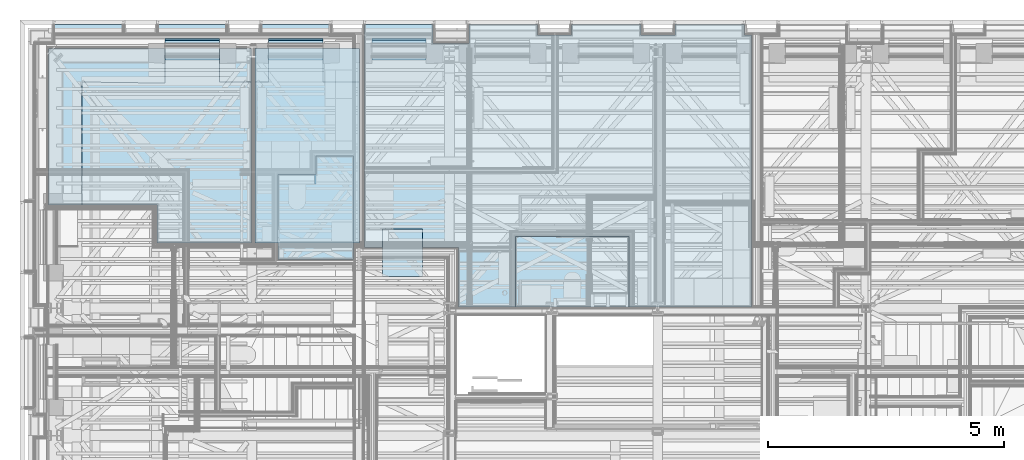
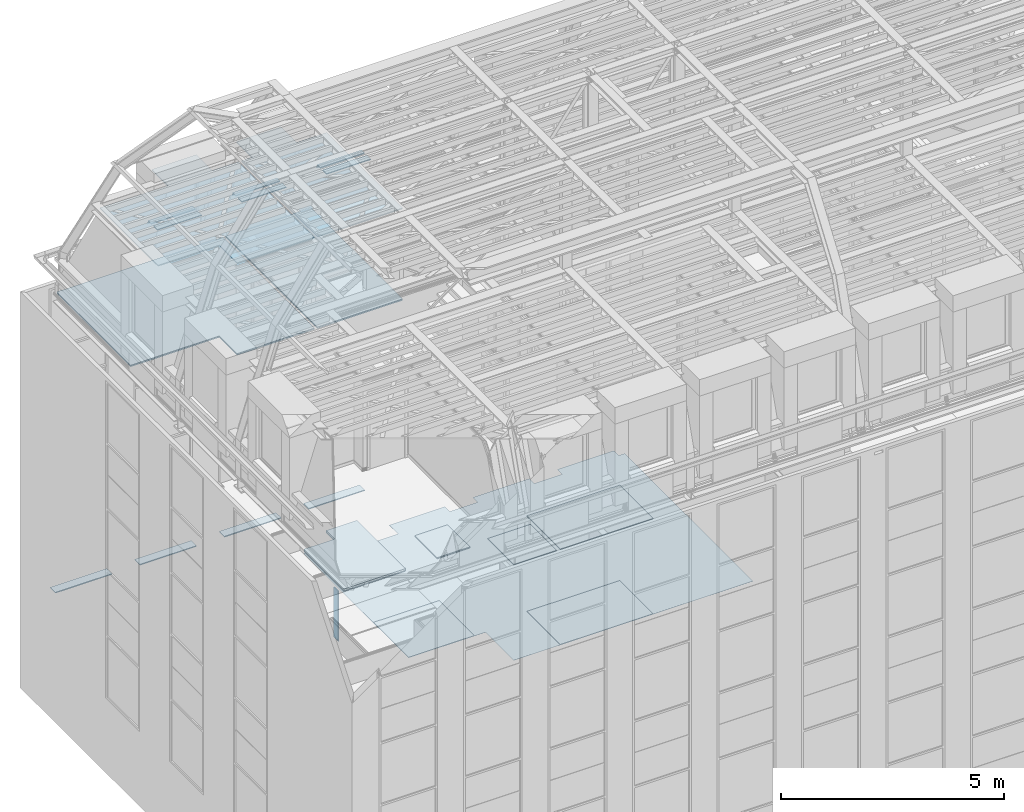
# One storey, part 88 of 183: 31 slabs.
"""IFC2X3 building model written with IfcOpenShell, lengths in metres."""

from ifc_helpers import new_model, entity, si_unit, converted_unit, derived_unit, money_unit, direction, frame, origin_with_axes, place, context, subcontext, project, spatial, faceted_brep, material, type_object, element, save


model = new_model("IFC2X3")

# Units and contexts
model_context = context("Model", 3, precision=1e-05, world=origin_with_axes(), true_north=direction((0.0, 1.0)))
body_context = subcontext(model_context, "Body", "Model", "MODEL_VIEW", scale=1.0)
ifc_project = project(units=[si_unit("LENGTHUNIT", "METRE"), si_unit("AREAUNIT", "SQUARE_METRE"), si_unit("VOLUMEUNIT", "CUBIC_METRE"), si_unit("ABSORBEDDOSEUNIT", "GRAY"), si_unit("AMOUNTOFSUBSTANCEUNIT", "MOLE"), si_unit("DOSEEQUIVALENTUNIT", "SIEVERT"), si_unit("ELECTRICCAPACITANCEUNIT", "FARAD"), si_unit("ELECTRICCHARGEUNIT", "COULOMB"), si_unit("ELECTRICCONDUCTANCEUNIT", "SIEMENS"), si_unit("ELECTRICCURRENTUNIT", "AMPERE"), si_unit("ELECTRICRESISTANCEUNIT", "OHM"), si_unit("ELECTRICVOLTAGEUNIT", "VOLT"), si_unit("ENERGYUNIT", "JOULE"), si_unit("FORCEUNIT", "NEWTON"), si_unit("FREQUENCYUNIT", "HERTZ"), si_unit("ILLUMINANCEUNIT", "LUX"), si_unit("INDUCTANCEUNIT", "HENRY"), si_unit("LUMINOUSFLUXUNIT", "LUMEN"), si_unit("LUMINOUSINTENSITYUNIT", "CANDELA"), si_unit("MAGNETICFLUXDENSITYUNIT", "TESLA"), si_unit("MAGNETICFLUXUNIT", "WEBER"), si_unit("MASSUNIT", "GRAM"), converted_unit("PLANEANGLEUNIT", "degree", entity("IfcReal", 0.0174532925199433), si_unit("PLANEANGLEUNIT", "RADIAN"), dimensions=[0, 0, 0, 0, 0, 0, 0]), si_unit("POWERUNIT", "WATT"), si_unit("PRESSUREUNIT", "PASCAL"), si_unit("RADIOACTIVITYUNIT", "BECQUEREL"), si_unit("SOLIDANGLEUNIT", "STERADIAN"), si_unit("THERMODYNAMICTEMPERATUREUNIT", "KELVIN"), si_unit("TIMEUNIT", "SECOND"), derived_unit("ACCELERATIONUNIT", [(si_unit("LENGTHUNIT", "METRE"), 1), (si_unit("TIMEUNIT", "SECOND"), -2)]), derived_unit("ANGULARVELOCITYUNIT", [(converted_unit("PLANEANGLEUNIT", "degree", entity("IfcReal", 0.0174532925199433), si_unit("PLANEANGLEUNIT", "RADIAN"), dimensions=[0, 0, 0, 0, 0, 0, 0]), 1), (si_unit("TIMEUNIT", "SECOND"), -1)]), derived_unit("CURVATUREUNIT", [(converted_unit("PLANEANGLEUNIT", "degree", entity("IfcReal", 0.0174532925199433), si_unit("PLANEANGLEUNIT", "RADIAN"), dimensions=[0, 0, 0, 0, 0, 0, 0]), 1), (si_unit("LENGTHUNIT", "METRE"), -1)]), derived_unit("DYNAMICVISCOSITYUNIT", [(si_unit("PRESSUREUNIT", "PASCAL"), 1), (si_unit("TIMEUNIT", "SECOND"), 1)]), derived_unit("HEATFLUXDENSITYUNIT", [(si_unit("POWERUNIT", "WATT"), 1), (si_unit("LENGTHUNIT", "METRE"), -2)]), derived_unit("HEATINGVALUEUNIT", [(si_unit("ENERGYUNIT", "JOULE"), 1), (si_unit("MASSUNIT", "GRAM"), -1)]), derived_unit("INTEGERCOUNTRATEUNIT", [(si_unit("TIMEUNIT", "SECOND"), -1)]), derived_unit("IONCONCENTRATIONUNIT", [(si_unit("MASSUNIT", "GRAM"), 1), (si_unit("VOLUMEUNIT", "CUBIC_METRE"), -1)]), derived_unit("ISOTHERMALMOISTURECAPACITYUNIT", [(si_unit("VOLUMEUNIT", "CUBIC_METRE"), 1), (si_unit("MASSUNIT", "GRAM"), -1)]), derived_unit("KINEMATICVISCOSITYUNIT", [(si_unit("AREAUNIT", "SQUARE_METRE"), 1), (si_unit("TIMEUNIT", "SECOND"), -1)]), derived_unit("LINEARFORCEUNIT", [(si_unit("FORCEUNIT", "NEWTON"), 1), (si_unit("LENGTHUNIT", "METRE"), -1)]), derived_unit("LINEARMOMENTUNIT", [(si_unit("FORCEUNIT", "NEWTON"), 1), (si_unit("LENGTHUNIT", "METRE"), -1)]), derived_unit("LINEARSTIFFNESSUNIT", [(si_unit("FORCEUNIT", "NEWTON"), 1), (si_unit("LENGTHUNIT", "METRE"), -1)]), derived_unit("LINEARVELOCITYUNIT", [(si_unit("LENGTHUNIT", "METRE"), 1), (si_unit("TIMEUNIT", "SECOND"), -1)]), derived_unit("LUMINOUSINTENSITYDISTRIBUTIONUNIT", [(si_unit("LUMINOUSINTENSITYUNIT", "CANDELA"), 1), (si_unit("LUMINOUSFLUXUNIT", "LUMEN"), -1)]), derived_unit("MASSDENSITYUNIT", [(si_unit("MASSUNIT", "GRAM"), 1), (si_unit("VOLUMEUNIT", "CUBIC_METRE"), -1)]), derived_unit("MASSFLOWRATEUNIT", [(si_unit("MASSUNIT", "GRAM"), 1), (si_unit("TIMEUNIT", "SECOND"), -1)]), derived_unit("MASSPERLENGTHUNIT", [(si_unit("MASSUNIT", "GRAM"), 1), (si_unit("LENGTHUNIT", "METRE"), -1)]), derived_unit("MODULUSOFELASTICITYUNIT", [(si_unit("FORCEUNIT", "NEWTON"), 1), (si_unit("AREAUNIT", "SQUARE_METRE"), -1)]), derived_unit("MODULUSOFLINEARSUBGRADEREACTIONUNIT", [(si_unit("FORCEUNIT", "NEWTON"), 1), (si_unit("LENGTHUNIT", "METRE"), -2)]), derived_unit("MODULUSOFROTATIONALSUBGRADEREACTIONUNIT", [(si_unit("FORCEUNIT", "NEWTON"), 1), (si_unit("LENGTHUNIT", "METRE"), 1)]), derived_unit("MODULUSOFSUBGRADEREACTIONUNIT", [(si_unit("FORCEUNIT", "NEWTON"), 1), (si_unit("VOLUMEUNIT", "CUBIC_METRE"), -1)]), derived_unit("MOISTUREDIFFUSIVITYUNIT", [(si_unit("VOLUMEUNIT", "CUBIC_METRE"), 1), (si_unit("TIMEUNIT", "SECOND"), -1)]), derived_unit("MOLECULARWEIGHTUNIT", [(si_unit("MASSUNIT", "GRAM"), 1), (si_unit("AMOUNTOFSUBSTANCEUNIT", "MOLE"), -1)]), derived_unit("PLANARFORCEUNIT", [(si_unit("FORCEUNIT", "NEWTON"), 1), (si_unit("LENGTHUNIT", "METRE"), -2)]), derived_unit("ROTATIONALFREQUENCYUNIT", [(si_unit("TIMEUNIT", "SECOND"), -1)]), derived_unit("ROTATIONALMASSUNIT", [(si_unit("MASSUNIT", "GRAM"), 1), (si_unit("LENGTHUNIT", "METRE"), 2)]), derived_unit("ROTATIONALSTIFFNESSUNIT", [(si_unit("FORCEUNIT", "NEWTON"), 1), (si_unit("LENGTHUNIT", "METRE"), 1), (converted_unit("PLANEANGLEUNIT", "degree", entity("IfcReal", 0.0174532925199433), si_unit("PLANEANGLEUNIT", "RADIAN"), dimensions=[0, 0, 0, 0, 0, 0, 0]), -1)]), derived_unit("SECTIONAREAINTEGRALUNIT", [(si_unit("LENGTHUNIT", "METRE"), 5)]), derived_unit("SECTIONMODULUSUNIT", [(si_unit("LENGTHUNIT", "METRE"), 3)]), derived_unit("SHEARMODULUSUNIT", [(si_unit("FORCEUNIT", "NEWTON"), 1), (si_unit("AREAUNIT", "SQUARE_METRE"), -1)]), derived_unit("SOUNDPOWERUNIT", [(si_unit("ENERGYUNIT", "JOULE"), 1), (si_unit("TIMEUNIT", "SECOND"), -1)]), derived_unit("SPECIFICHEATCAPACITYUNIT", [(si_unit("FORCEUNIT", "NEWTON"), 1), (si_unit("MASSUNIT", "GRAM"), -1), (si_unit("THERMODYNAMICTEMPERATUREUNIT", "KELVIN"), -1)]), derived_unit("TEMPERATUREGRADIENTUNIT", [(si_unit("THERMODYNAMICTEMPERATUREUNIT", "KELVIN"), 1), (si_unit("LENGTHUNIT", "METRE"), -1)]), derived_unit("THERMALADMITTANCEUNIT", [(si_unit("POWERUNIT", "WATT"), 1), (si_unit("AREAUNIT", "SQUARE_METRE"), -1), (si_unit("THERMODYNAMICTEMPERATUREUNIT", "KELVIN"), -1)]), derived_unit("THERMALCONDUCTANCEUNIT", [(si_unit("POWERUNIT", "WATT"), 1), (si_unit("LENGTHUNIT", "METRE"), -1), (si_unit("THERMODYNAMICTEMPERATUREUNIT", "KELVIN"), -1)]), derived_unit("THERMALEXPANSIONCOEFFICIENTUNIT", [(si_unit("THERMODYNAMICTEMPERATUREUNIT", "KELVIN"), -1)]), derived_unit("THERMALRESISTANCEUNIT", [(si_unit("AREAUNIT", "SQUARE_METRE"), 1), (si_unit("POWERUNIT", "WATT"), -1)]), derived_unit("THERMALTRANSMITTANCEUNIT", [(si_unit("POWERUNIT", "WATT"), 1), (si_unit("AREAUNIT", "SQUARE_METRE"), -1), (si_unit("THERMODYNAMICTEMPERATUREUNIT", "KELVIN"), -1)]), derived_unit("TORQUEUNIT", [(si_unit("FORCEUNIT", "NEWTON"), 1), (si_unit("LENGTHUNIT", "METRE"), 1)]), derived_unit("VAPORPERMEABILITYUNIT", [(si_unit("MASSUNIT", "GRAM"), 1), (si_unit("TIMEUNIT", "SECOND"), -1)]), derived_unit("VOLUMETRICFLOWRATEUNIT", [(si_unit("VOLUMEUNIT", "CUBIC_METRE"), 1), (si_unit("TIMEUNIT", "SECOND"), -1)]), derived_unit("WARPINGCONSTANTUNIT", [(si_unit("LENGTHUNIT", "METRE"), 6)]), derived_unit("WARPINGMOMENTUNIT", [(si_unit("FORCEUNIT", "NEWTON"), 1), (si_unit("LENGTHUNIT", "METRE"), 2)]), money_unit("GBP")], contexts=[model_context])

# Site, building, storey
site_placement = place(None, origin_with_axes())
site = spatial("IfcSite", under=ifc_project, at=site_placement, Name="Site", CompositionType="ELEMENT")
building_placement = place(site_placement, origin_with_axes())
building = spatial("IfcBuilding", under=site, at=building_placement, Name="Building01", CompositionType="ELEMENT")
storey_placement = place(building_placement, frame((0.0, 0.0, 5.15), z_axis=(0.0, 0.0, 1.0), x_axis=(1.0, 0.0, 0.0)))
storey = spatial("IfcBuildingStorey", under=building, at=storey_placement, Name="1F", CompositionType="ELEMENT", Elevation=5.15)

# Slabs
ifc_material_1 = material(Name="A_BSUK_ExpandedPolystyreneBoards")
slab_type_1 = type_object("IfcSlabType", Name="A-FloorsSlabs A_BSUK_Slabs", PredefinedType="FLOOR")
placement = place(storey_placement, frame((0.0, 0.0, -5.15), z_axis=(0.0, 0.0, 1.0), x_axis=(1.0, 0.0, 0.0)))
element("IfcSlab", 1, at=placement, inside=storey, type_object=slab_type_1, material=ifc_material_1, Name="A-FloorsSlabs A_BSUK_Slabs", ObjectType="CompoundSlabLeaf", context=body_context, shape_type="Brep", body=[
    faceted_brep([(7.289669, 10.087704, 5.15), (7.289669, 10.087704, 5.153), (7.289669, 14.582, 5.153), (7.289669, 14.582, 5.15), (9.285, 10.087704, 5.15), (9.285, 10.087704, 5.153), (9.285, 8.82, 5.15), (9.285, 8.82, 5.153), (12.893585, 8.82, 5.15), (12.893585, 8.82, 5.153), (15.483132, 8.82, 5.15), (15.483132, 8.82, 5.153), (15.483132, 14.582, 5.15), (15.483132, 14.582, 5.153), (15.335, 14.582, 5.15), (15.335, 14.582, 5.153), (15.335, 14.8, 5.15), (15.335, 14.8, 5.153), (13.865, 14.8, 5.15), (13.865, 14.8, 5.153), (13.865, 14.582, 5.15), (13.865, 14.582, 5.153), (13.145, 14.582, 5.15), (13.145, 14.582, 5.153), (13.145, 14.8, 5.15), (13.145, 14.8, 5.153), (11.675, 14.8, 5.15), (11.675, 14.8, 5.153), (11.675, 14.582, 5.15), (11.675, 14.582, 5.153), (10.955, 14.582, 5.15), (10.955, 14.582, 5.153), (10.955, 14.8, 5.15), (10.955, 14.8, 5.153), (9.508, 14.8, 5.15), (9.508, 14.8, 5.153), (9.508, 14.402, 5.15), (9.508, 14.402, 5.153), (8.742, 14.402, 5.15), (8.742, 14.402, 5.153), (8.742, 14.8, 5.15), (8.742, 14.8, 5.153), (7.295, 14.8, 5.15), (7.295, 14.8, 5.153), (7.295, 14.582, 5.15), (7.295, 14.582, 5.153)], [[[0, 1, 2, 3]], [[4, 5, 1, 0]], [[6, 7, 5, 4]], [[8, 9, 7, 6]], [[10, 11, 9, 8]], [[12, 13, 11, 10]], [[14, 15, 13, 12]], [[16, 17, 15, 14]], [[18, 19, 17, 16]], [[20, 21, 19, 18]], [[22, 23, 21, 20]], [[24, 25, 23, 22]], [[26, 27, 25, 24]], [[28, 29, 27, 26]], [[30, 31, 29, 28]], [[32, 33, 31, 30]], [[34, 35, 33, 32]], [[36, 37, 35, 34]], [[38, 39, 37, 36]], [[40, 41, 39, 38]], [[42, 43, 41, 40]], [[44, 45, 43, 42]], [[3, 2, 45, 44]], [[1, 5, 7, 9, 11, 13, 15, 17, 19, 21, 23, 25, 27, 29, 31, 33, 35, 37, 39, 41, 43, 45, 2]], [[3, 44, 42, 40, 38, 36, 34, 32, 30, 28, 26, 24, 22, 20, 18, 16, 14, 12, 10, 8, 6, 4, 0]]]),
])
ifc_material_2 = material(Name="A_BSUK_Parquet_Floor")
element("IfcSlab", 2, at=placement, inside=storey, type_object=slab_type_1, material=ifc_material_2, Name="A-FloorsSlabs A_BSUK_Slabs", ObjectType="CompoundSlabLeaf", context=body_context, shape_type="Brep", body=[
    faceted_brep([(7.289669, 10.087704, 5.153), (7.289669, 10.087704, 5.165), (7.289669, 11.668124, 5.165), (7.289669, 11.668124, 5.153), (8.995, 10.087704, 5.153), (8.995, 10.087704, 5.165), (8.995, 11.668124, 5.153), (8.995, 11.668124, 5.165)], [[[0, 1, 2, 3]], [[4, 5, 1, 0]], [[6, 7, 5, 4]], [[3, 2, 7, 6]], [[1, 5, 7, 2]], [[3, 6, 4, 0]]]),
])
ifc_material_3 = material(Name="A_BSUK_Ceramic_FloorTiles")
element("IfcSlab", 3, at=placement, inside=storey, type_object=slab_type_1, material=ifc_material_3, Name="A-FloorsSlabs A_BSUK_Slabs", ObjectType="CompoundSlabLeaf", context=body_context, shape_type="Brep", body=[
    faceted_brep([(10.488871, 10.32, 5.153), (10.488871, 10.32, 5.165), (12.893585, 10.32, 5.165), (12.893585, 10.32, 5.153), (10.488871, 8.82, 5.153), (10.488871, 8.82, 5.165), (12.893585, 8.82, 5.153), (12.893585, 8.82, 5.165)], [[[0, 1, 2, 3]], [[4, 5, 1, 0]], [[6, 7, 5, 4]], [[3, 2, 7, 6]], [[1, 5, 7, 2]], [[3, 6, 4, 0]]]),
])
ifc_material_4 = material(Name="A_BSUK_CeilingSoffitFinishes_Suspended")
element("IfcSlab", 4, at=placement, inside=storey, type_object=slab_type_1, material=ifc_material_4, Name="A-FloorsSlabs A_BSUK_Slabs", ObjectType="CompoundSlabLeaf", context=body_context, shape_type="Brep", body=[
    faceted_brep([(5.464669, 10.53067, 7.765), (5.464669, 10.53067, 7.78), (5.464669, 11.63067, 7.78), (5.464669, 11.63067, 7.765), (5.464669, 9.83067, 7.765), (5.464669, 9.83067, 7.78), (7.064669, 9.83067, 7.765), (7.064669, 9.83067, 7.78), (7.064669, 12.01567, 7.765), (7.064669, 12.01567, 7.78), (6.264669, 12.01567, 7.765), (6.264669, 12.01567, 7.78), (6.264669, 11.63067, 7.765), (6.264669, 11.63067, 7.78)], [[[0, 1, 2, 3]], [[4, 5, 1, 0]], [[6, 7, 5, 4]], [[8, 9, 7, 6]], [[10, 11, 9, 8]], [[12, 13, 11, 10]], [[3, 2, 13, 12]], [[1, 5, 7, 9, 11, 13, 2]], [[3, 12, 10, 8, 6, 4, 0]]]),
])
element("IfcSlab", 5, at=placement, inside=storey, type_object=slab_type_1, material=ifc_material_4, Name="A-FloorsSlabs A_BSUK_Slabs", ObjectType="CompoundSlabLeaf", context=body_context, shape_type="Brep", body=[
    faceted_brep([(10.488871, 10.32, 7.765), (10.488871, 10.32, 7.78), (12.893585, 10.32, 7.78), (12.893585, 10.32, 7.765), (10.488871, 8.82, 7.765), (10.488871, 8.82, 7.78), (12.893585, 8.82, 7.765), (12.893585, 8.82, 7.78)], [[[0, 1, 2, 3]], [[4, 5, 1, 0]], [[6, 7, 5, 4]], [[3, 2, 7, 6]], [[1, 5, 7, 2]], [[3, 6, 4, 0]]]),
])
element("IfcSlab", 6, at=placement, inside=storey, type_object=slab_type_1, material=ifc_material_4, Name="A-FloorsSlabs A_BSUK_Slabs", ObjectType="CompoundSlabLeaf", context=body_context, shape_type="Brep", body=[
    faceted_brep([(9.285, 8.82, 7.765), (9.285, 8.82, 7.78), (9.285, 9.992662, 7.78), (9.285, 9.992662, 7.765), (10.393585, 8.82, 7.765), (10.393585, 8.82, 7.78), (10.393585, 9.992662, 7.765), (10.393585, 9.992662, 7.78)], [[[0, 1, 2, 3]], [[4, 5, 1, 0]], [[6, 7, 5, 4]], [[3, 2, 7, 6]], [[1, 5, 7, 2]], [[3, 6, 4, 0]]]),
])
ifc_material_5 = material(Name="A_BSUK_Ceramic_WallTiles")
element("IfcSlab", 7, at=placement, inside=storey, type_object=slab_type_1, material=ifc_material_5, Name="A-FloorsSlabs A_BSUK_Slabs", ObjectType="CompoundSlabLeaf", context=body_context, shape_type="Brep", body=[
    faceted_brep([(6.239669, 11.43067, 6.525), (6.264669, 11.43067, 6.525), (6.264669, 11.63067, 6.525), (6.239669, 11.63067, 6.525), (6.239669, 11.430672, 5.15), (6.264669, 11.430672, 5.15), (6.239669, 11.63067, 5.15), (6.264669, 11.63067, 5.15)], [[[0, 1, 2, 3]], [[4, 5, 1, 0]], [[6, 7, 5, 4]], [[3, 2, 7, 6]], [[1, 5, 7, 2]], [[3, 6, 4, 0]]]),
])
ifc_material_6 = material(Name="A_BSUK_Timber_Miscellaneous")
element("IfcSlab", 8, at=placement, inside=storey, type_object=slab_type_1, material=ifc_material_6, Name="A-FloorsSlabs A_BSUK_Slabs", ObjectType="CompoundSlabLeaf", context=body_context, shape_type="Brep", body=[
    faceted_brep([(0.725, 14.567, 6.5), (0.725, 14.567, 6.525), (0.725, 14.800002, 6.525), (0.725, 14.800002, 6.5), (2.195, 14.567, 6.5), (2.195, 14.567, 6.525), (2.195, 14.8, 6.5), (2.195, 14.8, 6.525)], [[[0, 1, 2, 3]], [[4, 5, 1, 0]], [[6, 7, 5, 4]], [[3, 2, 7, 6]], [[1, 5, 7, 2]], [[3, 6, 4, 0]]]),
])
element("IfcSlab", 9, at=placement, inside=storey, type_object=slab_type_1, material=ifc_material_6, Name="A-FloorsSlabs A_BSUK_Slabs", ObjectType="CompoundSlabLeaf", context=body_context, shape_type="Brep", body=[
    faceted_brep([(2.915, 14.567, 6.5), (2.915, 14.567, 6.525), (2.915, 14.800002, 6.525), (2.915, 14.800002, 6.5), (4.385, 14.567, 6.5), (4.385, 14.567, 6.525), (4.385, 14.8, 6.5), (4.385, 14.8, 6.525)], [[[0, 1, 2, 3]], [[4, 5, 1, 0]], [[6, 7, 5, 4]], [[3, 2, 7, 6]], [[1, 5, 7, 2]], [[3, 6, 4, 0]]]),
])
element("IfcSlab", 10, at=placement, inside=storey, type_object=slab_type_1, material=ifc_material_6, Name="A-FloorsSlabs A_BSUK_Slabs", ObjectType="CompoundSlabLeaf", context=body_context, shape_type="Brep", body=[
    faceted_brep([(5.105, 14.567, 6.5), (5.105, 14.567, 6.525), (5.105, 14.800002, 6.525), (5.105, 14.800002, 6.5), (6.575, 14.567, 6.5), (6.575, 14.567, 6.525), (6.575, 14.8, 6.5), (6.575, 14.8, 6.525)], [[[0, 1, 2, 3]], [[4, 5, 1, 0]], [[6, 7, 5, 4]], [[3, 2, 7, 6]], [[1, 5, 7, 2]], [[3, 6, 4, 0]]]),
])
element("IfcSlab", 11, at=placement, inside=storey, type_object=slab_type_1, material=ifc_material_6, Name="A-FloorsSlabs A_BSUK_Slabs", ObjectType="CompoundSlabLeaf", context=body_context, shape_type="Brep", body=[
    faceted_brep([(7.289669, 14.567, 6.5), (7.289669, 14.567, 6.525), (7.289669, 14.800002, 6.525), (7.289669, 14.800002, 6.5), (8.742124, 14.567, 6.5), (8.742124, 14.567, 6.525), (8.742124, 14.8, 6.5), (8.742124, 14.8, 6.525)], [[[0, 1, 2, 3]], [[4, 5, 1, 0]], [[6, 7, 5, 4]], [[3, 2, 7, 6]], [[1, 5, 7, 2]], [[3, 6, 4, 0]]]),
])
element("IfcSlab", 12, at=placement, inside=storey, type_object=slab_type_1, material=ifc_material_4, Name="A-FloorsSlabs A_BSUK_Slabs", ObjectType="CompoundSlabLeaf", context=body_context, shape_type="Brep", body=[
    faceted_brep([(7.677169, 9.475204, 8.115), (7.677169, 9.475204, 8.13), (7.677169, 10.475204, 8.13), (7.677169, 10.475204, 8.115), (8.525, 9.475204, 8.115), (8.525, 9.475204, 8.13), (8.525, 10.475204, 8.115), (8.525, 10.475204, 8.13)], [[[0, 1, 2, 3]], [[4, 5, 1, 0]], [[6, 7, 5, 4]], [[3, 2, 7, 6]], [[1, 5, 7, 2]], [[3, 6, 4, 0]]]),
])
element("IfcSlab", 13, at=placement, inside=storey, type_object=slab_type_1, material=ifc_material_4, Name="A-FloorsSlabs A_BSUK_Slabs", ObjectType="CompoundSlabLeaf", context=body_context, shape_type="Brep", body=[
    faceted_brep([(7.677169, 9.475204, 8.1), (7.677169, 9.475204, 8.115), (7.677169, 10.475204, 8.115), (7.677169, 10.475204, 8.1), (8.525, 9.475204, 8.1), (8.525, 9.475204, 8.115), (8.525, 10.475204, 8.1), (8.525, 10.475204, 8.115)], [[[0, 1, 2, 3]], [[4, 5, 1, 0]], [[6, 7, 5, 4]], [[3, 2, 7, 6]], [[1, 5, 7, 2]], [[3, 6, 4, 0]]]),
])
slab_14_placement = place(storey_placement, frame((8.600024, 14.324696, 10.78), z_axis=(0.0, 0.0, 1.0), x_axis=(1.0, 0.0, 0.0)))
element("IfcSlab", 14, at=slab_14_placement, inside=storey, type_object=slab_type_1, material=ifc_material_6, Name="A-FloorsSlabs A_BSUK_Slabs", ObjectType="A-FloorsSlabs A_BSUK_Slabs", context=body_context, shape_type="Brep", body=[
    faceted_brep([(0.0, 0.0, 0.022498), (-1.15, 0.0, 0.022498), (-1.15, 0.0, 0.0), (0.0, 0.0, 0.0), (0.0, 0.142391, 0.017505), (-1.15, 0.142391, 0.017505), (0.0, 0.148079, 0.0), (-1.15, 0.148079, 0.0)], [[[0, 1, 2, 3]], [[4, 5, 1, 0]], [[6, 7, 5, 4]], [[3, 2, 7, 6]], [[1, 5, 7, 2]], [[3, 6, 4, 0]]]),
])
ifc_material_7 = material(Name="A_BSUK_Steel_Miscellaneous")
slab_15_placement = place(storey_placement, frame((8.600024, 14.324696, 10.802498), z_axis=(0.0, 0.0, 1.0), x_axis=(1.0, 0.0, 0.0)))
element("IfcSlab", 15, at=slab_15_placement, inside=storey, type_object=slab_type_1, material=ifc_material_7, Name="A-FloorsSlabs A_BSUK_Slabs", ObjectType="A-FloorsSlabs A_BSUK_Slabs", context=body_context, shape_type="Brep", body=[
    faceted_brep([(0.0, 0.0, 0.007502), (-1.15, 0.0, 0.007502), (-1.15, 0.0, 0.0), (0.0, 0.0, 0.0), (0.0, 0.001, 0.007502), (-1.15, 0.001, 0.007502), (0.0, 0.0025, 0.002414), (-1.15, 0.0025, 0.002414), (0.0, 0.144228, -0.002556), (-1.15, 0.144228, -0.002556), (0.0, 0.183199, -0.122498), (-1.15, 0.183199, -0.122498), (0.0, 0.183199, -0.127498), (-1.15, 0.183199, -0.127498), (0.0, 0.180699, -0.127498), (-1.15, 0.180699, -0.127498), (0.0, 0.180699, -0.122894), (-1.15, 0.180699, -0.122894), (0.0, 0.142391, -0.004993), (-1.15, 0.142391, -0.004993)], [[[0, 1, 2, 3]], [[4, 5, 1, 0]], [[6, 7, 5, 4]], [[8, 9, 7, 6]], [[10, 11, 9, 8]], [[12, 13, 11, 10]], [[14, 15, 13, 12]], [[16, 17, 15, 14]], [[18, 19, 17, 16]], [[3, 2, 19, 18]], [[1, 5, 7, 9, 11, 13, 15, 17, 19, 2]], [[3, 18, 16, 14, 12, 10, 8, 6, 4, 0]]]),
])
slab_16_placement = place(storey_placement, frame((6.410024, 14.324696, 10.78), z_axis=(0.0, 0.0, 1.0), x_axis=(1.0, 0.0, 0.0)))
element("IfcSlab", 16, at=slab_16_placement, inside=storey, type_object=slab_type_1, material=ifc_material_6, Name="A-FloorsSlabs A_BSUK_Slabs", ObjectType="A-FloorsSlabs A_BSUK_Slabs", context=body_context, shape_type="Brep", body=[
    faceted_brep([(0.0, 0.0, 0.022498), (-1.15, 0.0, 0.022498), (-1.15, 0.0, 0.0), (0.0, 0.0, 0.0), (0.0, 0.142391, 0.017505), (-1.15, 0.142391, 0.017505), (0.0, 0.148079, 0.0), (-1.15, 0.148079, 0.0)], [[[0, 1, 2, 3]], [[4, 5, 1, 0]], [[6, 7, 5, 4]], [[3, 2, 7, 6]], [[1, 5, 7, 2]], [[3, 6, 4, 0]]]),
])
slab_17_placement = place(storey_placement, frame((6.410024, 14.324696, 10.802498), z_axis=(0.0, 0.0, 1.0), x_axis=(1.0, 0.0, 0.0)))
element("IfcSlab", 17, at=slab_17_placement, inside=storey, type_object=slab_type_1, material=ifc_material_7, Name="A-FloorsSlabs A_BSUK_Slabs", ObjectType="A-FloorsSlabs A_BSUK_Slabs", context=body_context, shape_type="Brep", body=[
    faceted_brep([(0.0, 0.0, 0.007502), (-1.15, 0.0, 0.007502), (-1.15, 0.0, 0.0), (0.0, 0.0, 0.0), (0.0, 0.001, 0.007502), (-1.15, 0.001, 0.007502), (0.0, 0.0025, 0.002414), (-1.15, 0.0025, 0.002414), (0.0, 0.144228, -0.002556), (-1.15, 0.144228, -0.002556), (0.0, 0.183199, -0.122498), (-1.15, 0.183199, -0.122498), (0.0, 0.183199, -0.127498), (-1.15, 0.183199, -0.127498), (0.0, 0.180699, -0.127498), (-1.15, 0.180699, -0.127498), (0.0, 0.180699, -0.122894), (-1.15, 0.180699, -0.122894), (0.0, 0.142391, -0.004993), (-1.15, 0.142391, -0.004993)], [[[0, 1, 2, 3]], [[4, 5, 1, 0]], [[6, 7, 5, 4]], [[8, 9, 7, 6]], [[10, 11, 9, 8]], [[12, 13, 11, 10]], [[14, 15, 13, 12]], [[16, 17, 15, 14]], [[18, 19, 17, 16]], [[3, 2, 19, 18]], [[1, 5, 7, 9, 11, 13, 15, 17, 19, 2]], [[3, 18, 16, 14, 12, 10, 8, 6, 4, 0]]]),
])
slab_18_placement = place(storey_placement, frame((4.220024, 14.324696, 10.78), z_axis=(0.0, 0.0, 1.0), x_axis=(1.0, 0.0, 0.0)))
element("IfcSlab", 18, at=slab_18_placement, inside=storey, type_object=slab_type_1, material=ifc_material_6, Name="A-FloorsSlabs A_BSUK_Slabs", ObjectType="A-FloorsSlabs A_BSUK_Slabs", context=body_context, shape_type="Brep", body=[
    faceted_brep([(0.0, 0.0, 0.022498), (-1.15, 0.0, 0.022498), (-1.15, 0.0, 0.0), (0.0, 0.0, 0.0), (0.0, 0.142391, 0.017505), (-1.15, 0.142391, 0.017505), (0.0, 0.148079, 0.0), (-1.15, 0.148079, 0.0)], [[[0, 1, 2, 3]], [[4, 5, 1, 0]], [[6, 7, 5, 4]], [[3, 2, 7, 6]], [[1, 5, 7, 2]], [[3, 6, 4, 0]]]),
])
slab_19_placement = place(storey_placement, frame((4.220024, 14.324696, 10.802498), z_axis=(0.0, 0.0, 1.0), x_axis=(1.0, 0.0, 0.0)))
element("IfcSlab", 19, at=slab_19_placement, inside=storey, type_object=slab_type_1, material=ifc_material_7, Name="A-FloorsSlabs A_BSUK_Slabs", ObjectType="A-FloorsSlabs A_BSUK_Slabs", context=body_context, shape_type="Brep", body=[
    faceted_brep([(0.0, 0.0, 0.007502), (-1.15, 0.0, 0.007502), (-1.15, 0.0, 0.0), (0.0, 0.0, 0.0), (0.0, 0.001, 0.007502), (-1.15, 0.001, 0.007502), (0.0, 0.0025, 0.002414), (-1.15, 0.0025, 0.002414), (0.0, 0.144228, -0.002556), (-1.15, 0.144228, -0.002556), (0.0, 0.183199, -0.122498), (-1.15, 0.183199, -0.122498), (0.0, 0.183199, -0.127498), (-1.15, 0.183199, -0.127498), (0.0, 0.180699, -0.127498), (-1.15, 0.180699, -0.127498), (0.0, 0.180699, -0.122894), (-1.15, 0.180699, -0.122894), (0.0, 0.142391, -0.004993), (-1.15, 0.142391, -0.004993)], [[[0, 1, 2, 3]], [[4, 5, 1, 0]], [[6, 7, 5, 4]], [[8, 9, 7, 6]], [[10, 11, 9, 8]], [[12, 13, 11, 10]], [[14, 15, 13, 12]], [[16, 17, 15, 14]], [[18, 19, 17, 16]], [[3, 2, 19, 18]], [[1, 5, 7, 9, 11, 13, 15, 17, 19, 2]], [[3, 18, 16, 14, 12, 10, 8, 6, 4, 0]]]),
])
element("IfcSlab", 20, at=placement, inside=storey, type_object=slab_type_1, material=ifc_material_4, Name="A-FloorsSlabs A_BSUK_Slabs", ObjectType="CompoundSlabLeaf", context=body_context, shape_type="Brep", body=[
    faceted_brep([(1.312402, 10.979915, 17.423), (1.312402, 10.979915, 17.438), (1.312402, 13.587598, 17.438), (1.312402, 13.587598, 17.423), (2.9, 10.979915, 17.423), (2.9, 10.979915, 17.438), (2.9, 10.179939, 17.423), (2.9, 10.179939, 17.438), (4.900024, 10.179939, 17.423), (4.900024, 10.179939, 17.438), (4.900024, 13.587598, 17.423), (4.900024, 13.587598, 17.438), (4.219976, 13.587598, 17.423), (4.219976, 13.587598, 17.438), (4.219976, 14.300061, 17.423), (4.219976, 14.300061, 17.438), (3.070024, 14.300061, 17.423), (3.070024, 14.300061, 17.438), (3.070024, 13.563821, 17.423), (3.070024, 13.563821, 17.438)], [[[0, 1, 2, 3]], [[4, 5, 1, 0]], [[6, 7, 5, 4]], [[8, 9, 7, 6]], [[10, 11, 9, 8]], [[12, 13, 11, 10]], [[14, 15, 13, 12]], [[16, 17, 15, 14]], [[18, 19, 17, 16]], [[3, 2, 19, 18]], [[1, 5, 7, 9, 11, 13, 15, 17, 19, 2]], [[3, 18, 16, 14, 12, 10, 8, 6, 4, 0]]]),
])
element("IfcSlab", 21, at=placement, inside=storey, type_object=slab_type_1, material=ifc_material_4, Name="A-FloorsSlabs A_BSUK_Slabs", ObjectType="CompoundSlabLeaf", context=body_context, shape_type="Brep", body=[
    faceted_brep([(4.980024, 10.179939, 17.423), (4.980024, 10.179939, 17.438), (4.980024, 13.587598, 17.438), (4.980024, 13.587598, 17.423), (7.190024, 10.179939, 17.423), (7.190024, 10.179939, 17.438), (7.190024, 13.587598, 17.423), (7.190024, 13.587598, 17.438), (6.410024, 13.587598, 17.423), (6.410024, 13.587598, 17.438), (6.410024, 14.300061, 17.423), (6.410024, 14.300061, 17.438), (5.260024, 14.300061, 17.423), (5.260024, 14.300061, 17.438), (5.260024, 13.587598, 17.423), (5.260024, 13.587598, 17.438)], [[[0, 1, 2, 3]], [[4, 5, 1, 0]], [[6, 7, 5, 4]], [[8, 9, 7, 6]], [[10, 11, 9, 8]], [[12, 13, 11, 10]], [[14, 15, 13, 12]], [[3, 2, 15, 14]], [[1, 5, 7, 9, 11, 13, 15, 2]], [[3, 14, 12, 10, 8, 6, 4, 0]]]),
])
element("IfcSlab", 22, at=placement, inside=storey, type_object=slab_type_1, material=ifc_material_1, Name="A-FloorsSlabs A_BSUK_Slabs", ObjectType="CompoundSlabLeaf", context=body_context, shape_type="Brep", body=[
    faceted_brep([(0.6038, 10.979915, 14.92), (0.6038, 10.979915, 14.952), (0.6038, 14.2962, 14.952), (0.6038, 14.2962, 14.92), (2.9, 10.979915, 14.92), (2.9, 10.979915, 14.952), (2.9, 10.179939, 14.92), (2.9, 10.179939, 14.952), (4.900024, 10.179939, 14.92), (4.900024, 10.179939, 14.952), (4.900024, 14.2962, 14.92), (4.900024, 14.2962, 14.952), (4.219976, 14.2962, 14.92), (4.219976, 14.2962, 14.952), (3.070024, 14.2962, 14.92), (3.070024, 14.2962, 14.952)], [[[0, 1, 2, 3]], [[4, 5, 1, 0]], [[6, 7, 5, 4]], [[8, 9, 7, 6]], [[10, 11, 9, 8]], [[12, 13, 11, 10]], [[14, 15, 13, 12]], [[3, 2, 15, 14]], [[1, 5, 7, 9, 11, 13, 15, 2]], [[3, 14, 12, 10, 8, 6, 4, 0]]]),
])
element("IfcSlab", 23, at=placement, inside=storey, type_object=slab_type_1, material=ifc_material_1, Name="A-FloorsSlabs A_BSUK_Slabs", ObjectType="CompoundSlabLeaf", context=body_context, shape_type="Brep", body=[
    faceted_brep([(4.980024, 10.179939, 14.92), (4.980024, 10.179939, 14.952), (4.980024, 14.2962, 14.952), (4.980024, 14.2962, 14.92), (7.190024, 10.179939, 14.92), (7.190024, 10.179939, 14.952), (7.190024, 14.2962, 14.92), (7.190024, 14.2962, 14.952), (6.410024, 14.2962, 14.92), (6.410024, 14.2962, 14.952), (5.260024, 14.2962, 14.92), (5.260024, 14.2962, 14.952)], [[[0, 1, 2, 3]], [[4, 5, 1, 0]], [[6, 7, 5, 4]], [[8, 9, 7, 6]], [[10, 11, 9, 8]], [[3, 2, 11, 10]], [[1, 5, 7, 9, 11, 2]], [[3, 10, 8, 6, 4, 0]]]),
])
element("IfcSlab", 24, at=placement, inside=storey, type_object=slab_type_1, material=ifc_material_6, Name="A-FloorsSlabs A_BSUK_Slabs", ObjectType="CompoundSlabLeaf", context=body_context, shape_type="Brep", body=[
    faceted_brep([(8.600024, 14.224661, 15.93), (8.600024, 14.224661, 15.955), (8.600024, 14.050061, 15.955), (8.600024, 14.050061, 15.93), (7.450024, 14.224661, 15.93), (7.450024, 14.224661, 15.955), (7.450024, 14.050062, 15.93), (7.450024, 14.050062, 15.955)], [[[0, 1, 2, 3]], [[4, 5, 1, 0]], [[6, 7, 5, 4]], [[3, 2, 7, 6]], [[1, 5, 7, 2]], [[3, 6, 4, 0]]]),
])
element("IfcSlab", 25, at=placement, inside=storey, type_object=slab_type_1, material=ifc_material_6, Name="A-FloorsSlabs A_BSUK_Slabs", ObjectType="CompoundSlabLeaf", context=body_context, shape_type="Brep", body=[
    faceted_brep([(6.410024, 14.224661, 15.93), (6.410024, 14.224661, 15.955), (6.410024, 14.050061, 15.955), (6.410024, 14.050061, 15.93), (5.260024, 14.224661, 15.93), (5.260024, 14.224661, 15.955), (5.260024, 14.050062, 15.93), (5.260024, 14.050062, 15.955)], [[[0, 1, 2, 3]], [[4, 5, 1, 0]], [[6, 7, 5, 4]], [[3, 2, 7, 6]], [[1, 5, 7, 2]], [[3, 6, 4, 0]]]),
])
element("IfcSlab", 26, at=placement, inside=storey, type_object=slab_type_1, material=ifc_material_6, Name="A-FloorsSlabs A_BSUK_Slabs", ObjectType="CompoundSlabLeaf", context=body_context, shape_type="Brep", body=[
    faceted_brep([(4.220024, 14.224661, 15.93), (4.220024, 14.224661, 15.955), (4.220024, 14.050061, 15.955), (4.220024, 14.050061, 15.93), (3.070024, 14.224661, 15.93), (3.070024, 14.224661, 15.955), (3.070024, 14.050062, 15.93), (3.070024, 14.050062, 15.955)], [[[0, 1, 2, 3]], [[4, 5, 1, 0]], [[6, 7, 5, 4]], [[3, 2, 7, 6]], [[1, 5, 7, 2]], [[3, 6, 4, 0]]]),
])
element("IfcSlab", 27, at=placement, inside=storey, type_object=slab_type_1, material=ifc_material_4, Name="A-FloorsSlabs A_BSUK_Slabs", ObjectType="CompoundSlabLeaf", context=body_context, shape_type="Brep", body=[
    faceted_brep([(1.312402, 10.979915, 17.438), (1.312402, 10.979915, 17.453), (1.312402, 13.587598, 17.453), (1.312402, 13.587598, 17.438), (2.9, 10.979915, 17.438), (2.9, 10.979915, 17.453), (2.9, 10.179939, 17.438), (2.9, 10.179939, 17.453), (4.900024, 10.179939, 17.438), (4.900024, 10.179939, 17.453), (4.900024, 13.587598, 17.438), (4.900024, 13.587598, 17.453), (4.219976, 13.587598, 17.438), (4.219976, 13.587598, 17.453), (4.219976, 14.300061, 17.438), (4.219976, 14.300061, 17.453), (3.070024, 14.300061, 17.438), (3.070024, 14.300061, 17.453), (3.070024, 13.563821, 17.438), (3.070024, 13.563821, 17.453)], [[[0, 1, 2, 3]], [[4, 5, 1, 0]], [[6, 7, 5, 4]], [[8, 9, 7, 6]], [[10, 11, 9, 8]], [[12, 13, 11, 10]], [[14, 15, 13, 12]], [[16, 17, 15, 14]], [[18, 19, 17, 16]], [[3, 2, 19, 18]], [[1, 5, 7, 9, 11, 13, 15, 17, 19, 2]], [[3, 18, 16, 14, 12, 10, 8, 6, 4, 0]]]),
])
element("IfcSlab", 28, at=placement, inside=storey, type_object=slab_type_1, material=ifc_material_4, Name="A-FloorsSlabs A_BSUK_Slabs", ObjectType="CompoundSlabLeaf", context=body_context, shape_type="Brep", body=[
    faceted_brep([(4.980024, 10.179939, 17.438), (4.980024, 10.179939, 17.453), (4.980024, 13.587598, 17.453), (4.980024, 13.587598, 17.438), (7.190024, 10.179939, 17.438), (7.190024, 10.179939, 17.453), (7.190024, 13.587598, 17.438), (7.190024, 13.587598, 17.453), (6.410024, 13.587598, 17.438), (6.410024, 13.587598, 17.453), (6.410024, 14.300061, 17.438), (6.410024, 14.300061, 17.453), (5.260024, 14.300061, 17.438), (5.260024, 14.300061, 17.453), (5.260024, 13.587598, 17.438), (5.260024, 13.587598, 17.453)], [[[0, 1, 2, 3]], [[4, 5, 1, 0]], [[6, 7, 5, 4]], [[8, 9, 7, 6]], [[10, 11, 9, 8]], [[12, 13, 11, 10]], [[14, 15, 13, 12]], [[3, 2, 15, 14]], [[1, 5, 7, 9, 11, 13, 15, 2]], [[3, 14, 12, 10, 8, 6, 4, 0]]]),
])
slab_type_2 = type_object("IfcSlabType", Name="A-FloorsSlabs A_BSUK_ExpandedPolystyreneBoards", PredefinedType="FLOOR")
element("IfcSlab", 29, at=placement, inside=storey, type_object=slab_type_2, material=ifc_material_1, Name="A-FloorsSlabs A_BSUK_ExpandedPolystyreneBoards", ObjectType="CompoundSlabLeaf", context=body_context, shape_type="Brep", body=[
    faceted_brep([(5.464669, 10.53067, 7.78), (5.464669, 10.53067, 7.83), (5.464669, 11.63067, 7.83), (5.464669, 11.63067, 7.78), (5.464669, 9.83067, 7.78), (5.464669, 9.83067, 7.83), (7.064669, 9.83067, 7.78), (7.064669, 9.83067, 7.83), (7.064669, 12.01567, 7.78), (7.064669, 12.01567, 7.83), (6.264669, 12.01567, 7.78), (6.264669, 12.01567, 7.83), (6.264669, 11.63067, 7.78), (6.264669, 11.63067, 7.83)], [[[0, 1, 2, 3]], [[4, 5, 1, 0]], [[6, 7, 5, 4]], [[8, 9, 7, 6]], [[10, 11, 9, 8]], [[12, 13, 11, 10]], [[3, 2, 13, 12]], [[1, 5, 7, 9, 11, 13, 2]], [[3, 12, 10, 8, 6, 4, 0]]]),
])
ifc_material_8 = material(Name="A_BSUK_Carpet-Pile")
slab_type_3 = type_object("IfcSlabType", Name="A-Finishes A_BSUK_Carpet-Pile", PredefinedType="FLOOR")
element("IfcSlab", 30, at=placement, inside=storey, type_object=slab_type_3, material=ifc_material_8, Name="A-Finishes A_BSUK_Carpet-Pile", ObjectType="CompoundSlabLeaf", context=body_context, shape_type="Brep", body=[
    faceted_brep([(0.6038, 10.979915, 14.952), (0.6038, 10.979915, 14.964), (0.6038, 14.2962, 14.964), (0.6038, 14.2962, 14.952), (2.9, 10.979915, 14.952), (2.9, 10.979915, 14.964), (2.9, 10.179939, 14.952), (2.9, 10.179939, 14.964), (4.900024, 10.179939, 14.952), (4.900024, 10.179939, 14.964), (4.900024, 14.2962, 14.952), (4.900024, 14.2962, 14.964), (4.219976, 14.2962, 14.952), (4.219976, 14.2962, 14.964), (3.070024, 14.2962, 14.952), (3.070024, 14.2962, 14.964)], [[[0, 1, 2, 3]], [[4, 5, 1, 0]], [[6, 7, 5, 4]], [[8, 9, 7, 6]], [[10, 11, 9, 8]], [[12, 13, 11, 10]], [[14, 15, 13, 12]], [[3, 2, 15, 14]], [[1, 5, 7, 9, 11, 13, 15, 2]], [[3, 14, 12, 10, 8, 6, 4, 0]]]),
])
element("IfcSlab", 31, at=placement, inside=storey, type_object=slab_type_3, material=ifc_material_8, Name="A-Finishes A_BSUK_Carpet-Pile", ObjectType="CompoundSlabLeaf", context=body_context, shape_type="Brep", body=[
    faceted_brep([(4.980024, 10.179939, 14.952), (4.980024, 10.179939, 14.964), (4.980024, 14.2962, 14.964), (4.980024, 14.2962, 14.952), (7.190024, 10.179939, 14.952), (7.190024, 10.179939, 14.964), (7.190024, 14.2962, 14.952), (7.190024, 14.2962, 14.964), (6.410024, 14.2962, 14.952), (6.410024, 14.2962, 14.964), (5.260024, 14.2962, 14.952), (5.260024, 14.2962, 14.964)], [[[0, 1, 2, 3]], [[4, 5, 1, 0]], [[6, 7, 5, 4]], [[8, 9, 7, 6]], [[10, 11, 9, 8]], [[3, 2, 11, 10]], [[1, 5, 7, 9, 11, 2]], [[3, 10, 8, 6, 4, 0]]]),
])

save(model, "model.ifc")
